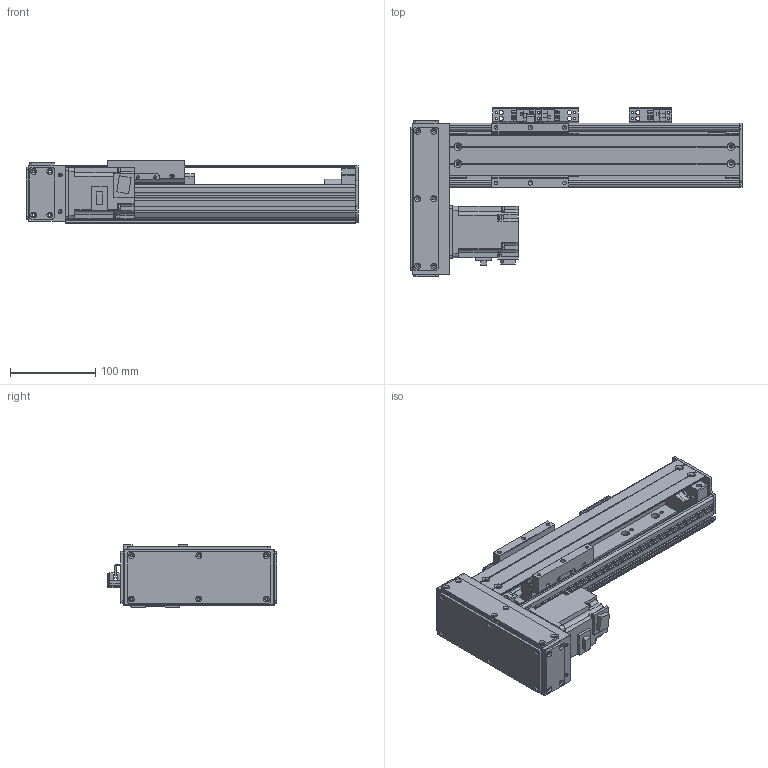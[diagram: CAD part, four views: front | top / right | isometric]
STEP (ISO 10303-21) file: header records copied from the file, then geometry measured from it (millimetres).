
FILE_DESCRIPTION(/* description */ (''),/* implementation_level */ '2;1');
FILE_NAME(/* name */ '\\192.168.0.160\disk1\HAN SHIN Master\B-설계부문\C-표준\B-2024년\BC02-표준도면\+로봇 개선표준도면\홈페이지 표준 도면\홈페이지 최종 작업 폴더\3D\HR\HR75\HR75병렬\우병렬\HR75-R20-N1B-0150-L10.stp',/* time_stamp */ '2025-01-18T16:10:47+09:00',/* author */ ('user'),/* organization */ (''),/* preprocessor_version */ 'ST-DEVELOPER v18.1',/* originating_system */ 'Autodesk Inventor 2022',/* authorisation */ '');
FILE_SCHEMA (('CONFIG_CONTROL_DESIGN'));
Products named in the file (23): HG75-L20-N1B-0500-R10 - 간소화; BASE; HR75 FRONT BLOCK; HR75 REAR COVER-TENTION; HR75 TENSION REAR BLOCK; HG3UPCOV001; H 15F_BLOCK; HG90STOPPER - 20L; HG90STOPPER - 27L; MOTOR PLATE-200W(MITSUBISHI); 화살표; hg-kr23_; M-5HL-4; HR75 W TABLE; LMKE1520 NUT; HR75-LR-BELT COVER(200W); HR75-BELT COVER-COVER2; HR75-BELT COVER-COVER; HR65-BELT COVER-COVER3; HC75-LR-MOTOR PLATE(200W)-사출_MIR; HR65,75 SENSOR DOG; EE_SX674A; SENSOR BRK(EE-SX674A)
Assembly tree (28 placements, depth 2):
  HG75-L20-N1B-0500-R10 - 간소화
    BASE
    HR75 FRONT BLOCK
    HR75 REAR COVER-TENTION
    HR75 TENSION REAR BLOCK
    HG3UPCOV001
    H 15F_BLOCK
    HG90STOPPER - 20L
    HG90STOPPER - 27L
    MOTOR PLATE-200W(MITSUBISHI)
    화살표  x2
    hg-kr23_
    M-5HL-4
    HR75 W TABLE
    LMKE1520 NUT
    SENSOR BRK(EE-SX674A)  x3
    EE_SX674A  x3
    HR75-LR-BELT COVER(200W)
    HR75-BELT COVER-COVER2
    HR75-BELT COVER-COVER
    HR65-BELT COVER-COVER3  x2
    HC75-LR-MOTOR PLATE(200W)-사출_MIR
    HR65,75 SENSOR DOG
Bounding box: 389 x 199 x 73 mm (x, y, z)
Volume: 1089676 mm3; surface area: 458056.6 mm2
Topology: 28 solids, 28 shells, 2905 faces, 8012 edges, 5295 vertices
Faces by surface type: plane 2177, cylinder 613, cone 107, sphere 8
Full cylindrical faces by diameter (mm): 1.8 x1, 2 x4, 2.013 x2, 2.459 x16, 2.5 x2, 3 x8, 3.242 x51, 3.4 x20, 3.5 x6, 4.134 x42, 4.5 x22, 4.917 x5, 5 x31, 5.5 x26, 5.6 x8, 5.8 x4, 5.9 x8, 6 x4, 6.5 x1, 7 x1, 8 x1, 9.5 x22, 14 x1, 15 x3, 17 x1, 20 x1, 25 x2, 28 x1, 32 x2, 33.7 x1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
Entity records: 89367 total; most frequent: CARTESIAN_POINT 15868, ORIENTED_EDGE 14908, DIRECTION 14145, EDGE_CURVE 7454, LINE 6161, VECTOR 6161, VERTEX_POINT 4963, AXIS2_PLACEMENT_3D 3992
